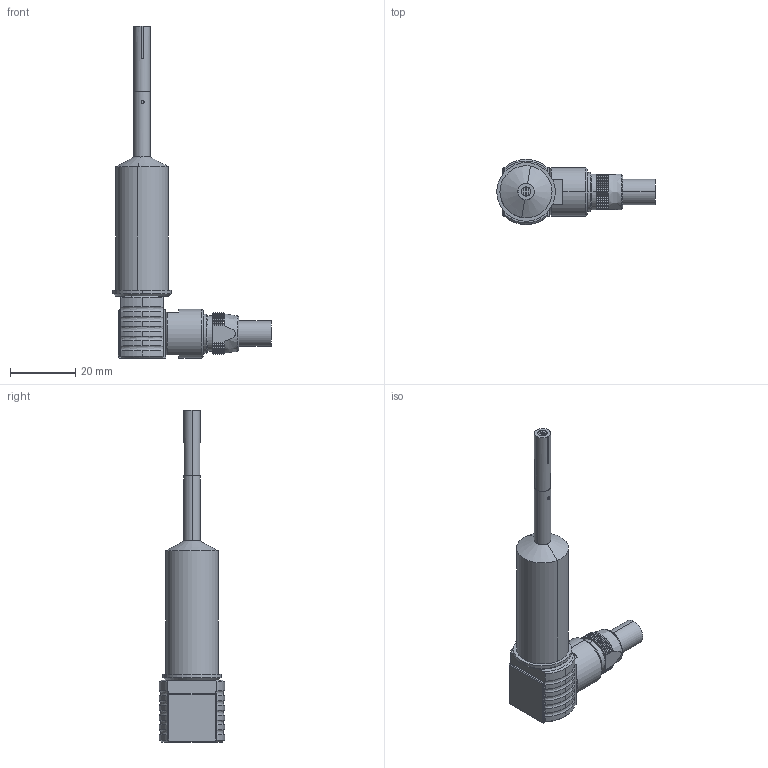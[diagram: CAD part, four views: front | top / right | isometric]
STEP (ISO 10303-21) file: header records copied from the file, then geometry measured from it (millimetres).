
FILE_DESCRIPTION (( 'STEP AP214' ), '1' );
FILE_NAME ('RISO5_mittel_Stecker_rw.STEP', '2011-02-21T01:00:40', ( '' ), ( '' ), 'SwSTEP 2.0', 'SolidWorks 2010', '' );
FILE_SCHEMA (( 'AUTOMOTIVE_DESIGN' ));
Length unit declared in the file: millimetre
Products named in the file (1): RISO5_mittel_Stecker_rw
Bounding box: 48.7 x 20 x 102 mm (x, y, z)
Surface area: 6033.9 mm2 (no closed solid volume)
Topology: 0 solids, 8 shells, 1311 faces, 2649 edges, 1329 vertices
Faces by surface type: plane 695, bspline 566, cylinder 42, cone 8
Entity records: 51930 total; most frequent: CARTESIAN_POINT 16796, ORIENTED_EDGE 5144, DIRECTION 3479, EDGE_CURVE 2647, AXIS2_PLACEMENT_3D 1454, VERTEX_POINT 1329, EDGE_LOOP 1324, UNCERTAINTY_MEASURE_WITH_UNIT 1313
